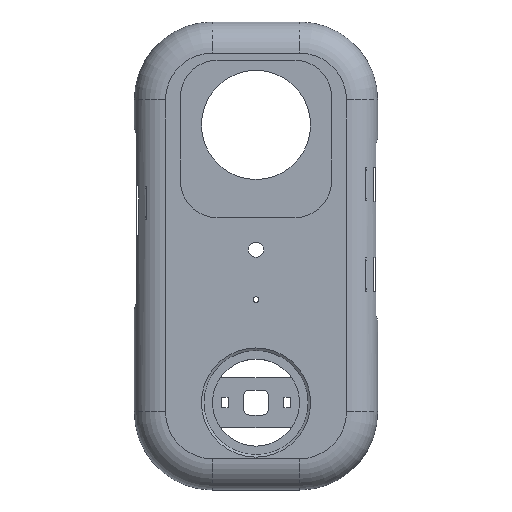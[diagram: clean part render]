
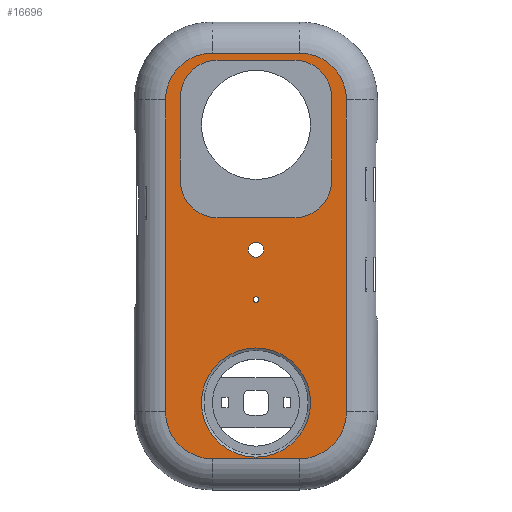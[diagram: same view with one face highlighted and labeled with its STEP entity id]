
A CAD part, top view. The second image highlights one B-rep face of the part: STEP entity #16696.
In plain terms, the highlighted planar face has unit normal (0, 0, 1).
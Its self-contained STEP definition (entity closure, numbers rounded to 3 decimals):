
#185=FACE_BOUND('',#2317,.T.);
#186=FACE_BOUND('',#2318,.T.);
#187=FACE_BOUND('',#2319,.T.);
#188=FACE_BOUND('',#2320,.T.);
#575=PLANE('',#18173);
#1353=FACE_OUTER_BOUND('',#2316,.T.);
#2316=EDGE_LOOP('',(#14142,#14143,#14144,#14145,#14146,#14147,#14148,#14149));
#2317=EDGE_LOOP('',(#14150));
#2318=EDGE_LOOP('',(#14151));
#2319=EDGE_LOOP('',(#14152,#14153,#14154,#14155,#14156,#14157,#14158,#14159));
#2320=EDGE_LOOP('',(#14160));
#3327=LINE('',#26194,#4970);
#3372=LINE('',#26325,#5015);
#3376=LINE('',#26337,#5019);
#3384=LINE('',#26360,#5027);
#3385=LINE('',#26362,#5028);
#3910=LINE('',#28348,#5553);
#3911=LINE('',#28352,#5554);
#3912=LINE('',#28356,#5555);
#4970=VECTOR('',#20421,1.);
#5015=VECTOR('',#20548,10.);
#5019=VECTOR('',#20560,10.);
#5027=VECTOR('',#20584,10.);
#5028=VECTOR('',#20587,10.);
#5553=VECTOR('',#22192,1.);
#5554=VECTOR('',#22195,1.);
#5555=VECTOR('',#22198,1.);
#6017=CIRCLE('',#17145,2.45);
#6221=CIRCLE('',#17609,17.5);
#6226=CIRCLE('',#17618,11.7);
#6228=CIRCLE('',#17622,11.7);
#6230=CIRCLE('',#17626,11.7);
#6233=CIRCLE('',#17631,11.7);
#6522=CIRCLE('',#18174,15.);
#6523=CIRCLE('',#18175,15.);
#6524=CIRCLE('',#18176,15.);
#6525=CIRCLE('',#18177,15.);
#6526=CIRCLE('',#18178,0.9);
#6827=VERTEX_POINT('',#24043);
#7421=VERTEX_POINT('',#26191);
#7422=VERTEX_POINT('',#26193);
#7458=VERTEX_POINT('',#26298);
#7463=VERTEX_POINT('',#26315);
#7464=VERTEX_POINT('',#26316);
#7467=VERTEX_POINT('',#26324);
#7469=VERTEX_POINT('',#26330);
#7471=VERTEX_POINT('',#26336);
#7473=VERTEX_POINT('',#26342);
#7474=VERTEX_POINT('',#26343);
#7478=VERTEX_POINT('',#26356);
#8034=VERTEX_POINT('',#28346);
#8035=VERTEX_POINT('',#28347);
#8036=VERTEX_POINT('',#28349);
#8037=VERTEX_POINT('',#28351);
#8038=VERTEX_POINT('',#28353);
#8039=VERTEX_POINT('',#28355);
#8040=VERTEX_POINT('',#28359);
#8507=EDGE_CURVE('',#6827,#6827,#6017,.T.);
#9325=EDGE_CURVE('',#7421,#7422,#3327,.T.);
#9377=EDGE_CURVE('',#7458,#7458,#6221,.T.);
#9384=EDGE_CURVE('',#7463,#7464,#6226,.T.);
#9388=EDGE_CURVE('',#7464,#7467,#3372,.T.);
#9391=EDGE_CURVE('',#7467,#7469,#6228,.T.);
#9394=EDGE_CURVE('',#7469,#7471,#3376,.T.);
#9397=EDGE_CURVE('',#7473,#7474,#6230,.T.);
#9404=EDGE_CURVE('',#7471,#7478,#6233,.T.);
#9406=EDGE_CURVE('',#7478,#7473,#3384,.T.);
#9407=EDGE_CURVE('',#7474,#7463,#3385,.T.);
#10232=EDGE_CURVE('',#8034,#8035,#3910,.T.);
#10233=EDGE_CURVE('',#8036,#8034,#6522,.T.);
#10234=EDGE_CURVE('',#8037,#8036,#3911,.T.);
#10235=EDGE_CURVE('',#8038,#8037,#6523,.T.);
#10236=EDGE_CURVE('',#8039,#8038,#3912,.T.);
#10237=EDGE_CURVE('',#7422,#8039,#6524,.T.);
#10238=EDGE_CURVE('',#8035,#7421,#6525,.T.);
#10239=EDGE_CURVE('',#8040,#8040,#6526,.T.);
#14142=ORIENTED_EDGE('',*,*,#10232,.F.);
#14143=ORIENTED_EDGE('',*,*,#10233,.F.);
#14144=ORIENTED_EDGE('',*,*,#10234,.F.);
#14145=ORIENTED_EDGE('',*,*,#10235,.F.);
#14146=ORIENTED_EDGE('',*,*,#10236,.F.);
#14147=ORIENTED_EDGE('',*,*,#10237,.F.);
#14148=ORIENTED_EDGE('',*,*,#9325,.F.);
#14149=ORIENTED_EDGE('',*,*,#10238,.F.);
#14150=ORIENTED_EDGE('',*,*,#8507,.T.);
#14151=ORIENTED_EDGE('',*,*,#9377,.T.);
#14152=ORIENTED_EDGE('',*,*,#9404,.T.);
#14153=ORIENTED_EDGE('',*,*,#9406,.T.);
#14154=ORIENTED_EDGE('',*,*,#9397,.T.);
#14155=ORIENTED_EDGE('',*,*,#9407,.T.);
#14156=ORIENTED_EDGE('',*,*,#9384,.T.);
#14157=ORIENTED_EDGE('',*,*,#9388,.T.);
#14158=ORIENTED_EDGE('',*,*,#9391,.T.);
#14159=ORIENTED_EDGE('',*,*,#9394,.T.);
#14160=ORIENTED_EDGE('',*,*,#10239,.T.);
#16696=ADVANCED_FACE('',(#1353,#185,#186,#187,#188),#575,.F.);
#17145=AXIS2_PLACEMENT_3D('',#24045,#18992,#18993);
#17609=AXIS2_PLACEMENT_3D('',#26300,#20520,#20521);
#17618=AXIS2_PLACEMENT_3D('',#26317,#20540,#20541);
#17622=AXIS2_PLACEMENT_3D('',#26331,#20553,#20554);
#17626=AXIS2_PLACEMENT_3D('',#26344,#20565,#20566);
#17631=AXIS2_PLACEMENT_3D('',#26357,#20579,#20580);
#18173=AXIS2_PLACEMENT_3D('',#28345,#22190,#22191);
#18174=AXIS2_PLACEMENT_3D('',#28350,#22193,#22194);
#18175=AXIS2_PLACEMENT_3D('',#28354,#22196,#22197);
#18176=AXIS2_PLACEMENT_3D('',#28357,#22199,#22200);
#18177=AXIS2_PLACEMENT_3D('',#28358,#22201,#22202);
#18178=AXIS2_PLACEMENT_3D('',#28360,#22203,#22204);
#18992=DIRECTION('center_axis',(0.,0.,-1.));
#18993=DIRECTION('ref_axis',(1.,0.,0.));
#20421=DIRECTION('',(0.,1.,0.));
#20520=DIRECTION('center_axis',(0.,0.,-1.));
#20521=DIRECTION('ref_axis',(1.,0.,0.));
#20540=DIRECTION('center_axis',(0.,0.,-1.));
#20541=DIRECTION('ref_axis',(1.,0.,0.));
#20548=DIRECTION('',(0.,-1.,0.));
#20553=DIRECTION('center_axis',(0.,0.,-1.));
#20554=DIRECTION('ref_axis',(1.,0.,0.));
#20560=DIRECTION('',(-1.,0.,0.));
#20565=DIRECTION('center_axis',(0.,0.,-1.));
#20566=DIRECTION('ref_axis',(1.,0.,0.));
#20579=DIRECTION('center_axis',(0.,0.,-1.));
#20580=DIRECTION('ref_axis',(1.,0.,0.));
#20584=DIRECTION('',(0.,1.,0.));
#20587=DIRECTION('',(1.,0.,0.));
#22190=DIRECTION('center_axis',(0.,0.,-1.));
#22191=DIRECTION('ref_axis',(-1.,0.,0.));
#22192=DIRECTION('',(-1.,0.,0.));
#22193=DIRECTION('center_axis',(0.,0.,-1.));
#22194=DIRECTION('ref_axis',(0.707,-0.707,0.));
#22195=DIRECTION('',(0.,-1.,0.));
#22196=DIRECTION('center_axis',(0.,0.,-1.));
#22197=DIRECTION('ref_axis',(0.707,0.707,0.));
#22198=DIRECTION('',(1.,0.,0.));
#22199=DIRECTION('center_axis',(0.,0.,-1.));
#22200=DIRECTION('ref_axis',(-0.707,0.707,0.));
#22201=DIRECTION('center_axis',(0.,0.,-1.));
#22202=DIRECTION('ref_axis',(-0.707,-0.707,0.));
#22203=DIRECTION('center_axis',(0.,0.,-1.));
#22204=DIRECTION('ref_axis',(-1.,0.,0.));
#24043=CARTESIAN_POINT('',(-2.45,2.,0.));
#24045=CARTESIAN_POINT('Origin',(0.,2.,0.));
#26191=CARTESIAN_POINT('',(-29.,-50.,0.));
#26193=CARTESIAN_POINT('',(-29.,50.,0.));
#26194=CARTESIAN_POINT('',(-29.,-25.,0.));
#26298=CARTESIAN_POINT('',(-17.5,-47.,0.));
#26300=CARTESIAN_POINT('Origin',(0.,-47.,0.));
#26315=CARTESIAN_POINT('',(12.5,62.7,0.));
#26316=CARTESIAN_POINT('',(24.2,51.,0.));
#26317=CARTESIAN_POINT('Origin',(12.5,51.,0.));
#26324=CARTESIAN_POINT('',(24.2,24.,0.));
#26325=CARTESIAN_POINT('',(24.2,18.75,0.));
#26330=CARTESIAN_POINT('',(12.5,12.3,0.));
#26331=CARTESIAN_POINT('Origin',(12.5,24.,0.));
#26336=CARTESIAN_POINT('',(-12.5,12.3,0.));
#26337=CARTESIAN_POINT('',(0.,12.3,0.));
#26342=CARTESIAN_POINT('',(-24.2,51.,0.));
#26343=CARTESIAN_POINT('',(-12.5,62.7,0.));
#26344=CARTESIAN_POINT('Origin',(-12.5,51.,0.));
#26356=CARTESIAN_POINT('',(-24.2,24.,0.));
#26357=CARTESIAN_POINT('Origin',(-12.5,24.,0.));
#26360=CARTESIAN_POINT('',(-24.2,18.75,0.));
#26362=CARTESIAN_POINT('',(0.,62.7,0.));
#28345=CARTESIAN_POINT('Origin',(0.,0.,0.));
#28346=CARTESIAN_POINT('',(14.,-65.,0.));
#28347=CARTESIAN_POINT('',(-14.,-65.,0.));
#28348=CARTESIAN_POINT('',(7.,-65.,0.));
#28349=CARTESIAN_POINT('',(29.,-50.,0.));
#28350=CARTESIAN_POINT('Origin',(14.,-50.,0.));
#28351=CARTESIAN_POINT('',(29.,50.,0.));
#28352=CARTESIAN_POINT('',(29.,25.,0.));
#28353=CARTESIAN_POINT('',(14.,65.,0.));
#28354=CARTESIAN_POINT('Origin',(14.,50.,0.));
#28355=CARTESIAN_POINT('',(-14.,65.,0.));
#28356=CARTESIAN_POINT('',(-7.,65.,0.));
#28357=CARTESIAN_POINT('Origin',(-14.,50.,0.));
#28358=CARTESIAN_POINT('Origin',(-14.,-50.,0.));
#28359=CARTESIAN_POINT('',(0.9,-14.,0.));
#28360=CARTESIAN_POINT('Origin',(0.,-14.,0.));
